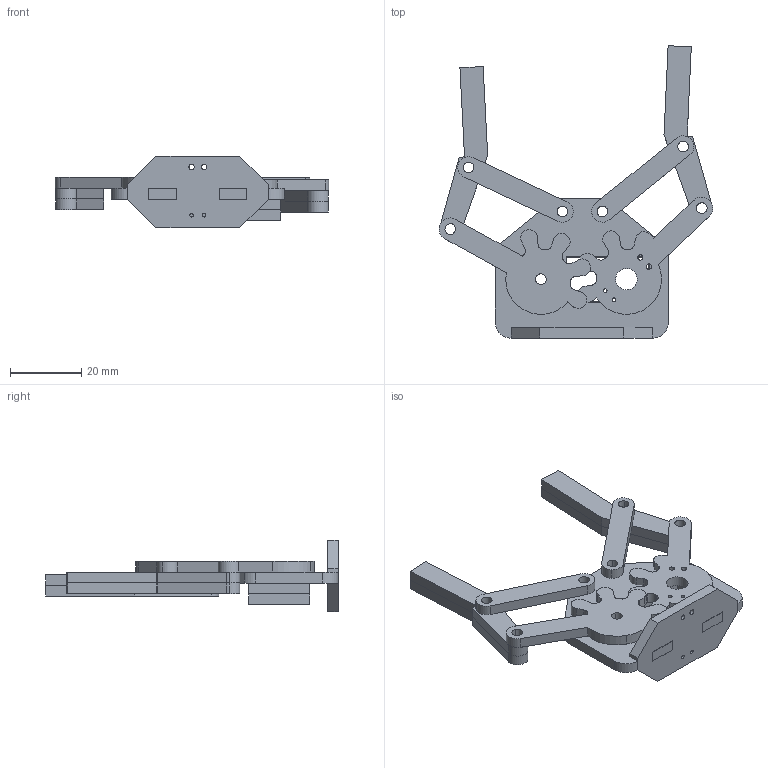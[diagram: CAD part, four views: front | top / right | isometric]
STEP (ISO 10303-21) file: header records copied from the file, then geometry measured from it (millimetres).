
FILE_DESCRIPTION (( 'STEP AP203' ), '1' );
FILE_NAME ('assembly.step', '2026-07-06T11:30:44', ( '' ), ( '' ), 'SwSTEP 2.0', 'SolidWorks 2024', '' );
FILE_SCHEMA (( 'CONFIG_CONTROL_DESIGN' ));
Length unit declared in the file: millimetre
Products named in the file (8): 8.9g_Défaut; 4.9g_Défaut; 2.9g_Défaut; assembly; cale servo 2_Défaut; 1.9g_Défaut; 3.9g_Défaut; 5.9g_Défaut
Assembly tree (12 placements, depth 2):
  assembly
    1.9g_Défaut
    cale servo 2_Défaut  x2
    3.9g_Défaut  x2
    5.9g_Défaut
    8.9g_Défaut
    4.9g_Défaut
    2.9g_Défaut  x4
Bounding box: 76.58 x 81.87 x 20 mm (x, y, z)
Volume: 14701.6 mm3; surface area: 15398.5 mm2
Topology: 12 solids, 12 shells, 253 faces, 687 edges, 458 vertices
Faces by surface type: cylinder 129, plane 124
Entity records: 7138 total; most frequent: DIRECTION 1118, CARTESIAN_POINT 1061, ORIENTED_EDGE 1032, EDGE_CURVE 516, AXIS2_PLACEMENT_3D 401, VERTEX_POINT 344, LINE 316, VECTOR 316
